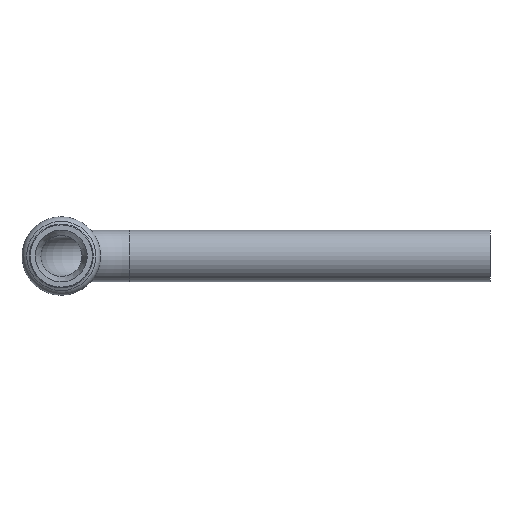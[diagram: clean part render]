
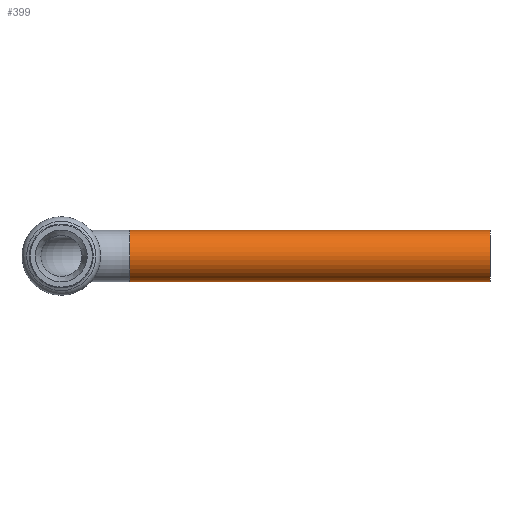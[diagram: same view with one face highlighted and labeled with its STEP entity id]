
A CAD part, left-side view. The second image highlights one B-rep face of the part: STEP entity #399.
In plain terms, the highlighted cylindrical face has radius 7.5 mm (diameter 15 mm), a full revolution.
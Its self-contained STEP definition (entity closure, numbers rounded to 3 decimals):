
#372=CARTESIAN_POINT('',(0.,-20.,0.0));
#373=DIRECTION('',(0.,-1.0,0.0));
#374=DIRECTION('',(0.0,0.0,1.0));
#375=AXIS2_PLACEMENT_3D('',#372,#373,#374);
#376=CYLINDRICAL_SURFACE('',#375,7.5);
#377=CARTESIAN_POINT('',(0.,-125.0,-7.5));
#378=VERTEX_POINT('',#377);
#379=CARTESIAN_POINT('',(0.,-125.0,0.0));
#380=DIRECTION('',(0.0,1.0,0.0));
#381=DIRECTION('',(0.0,0.0,1.0));
#382=AXIS2_PLACEMENT_3D('',#379,#380,#381);
#383=CIRCLE('',#382,7.5);
#384=EDGE_CURVE('',#378,#378,#383,.T.);
#385=ORIENTED_EDGE('',*,*,#384,.T.);
#386=EDGE_LOOP('',(#385));
#387=FACE_OUTER_BOUND('',#386,.T.);
#388=CARTESIAN_POINT('',(0.,-20.,-7.5));
#389=VERTEX_POINT('',#388);
#390=CARTESIAN_POINT('',(0.,-20.,0.0));
#391=DIRECTION('',(0.0,1.0,0.0));
#392=DIRECTION('',(0.0,0.0,1.0));
#393=AXIS2_PLACEMENT_3D('',#390,#391,#392);
#394=CIRCLE('',#393,7.5);
#395=EDGE_CURVE('',#389,#389,#394,.T.);
#396=ORIENTED_EDGE('',*,*,#395,.F.);
#397=EDGE_LOOP('',(#396));
#398=FACE_BOUND('',#397,.T.);
#399=ADVANCED_FACE('',(#387,#398),#376,.T.);
